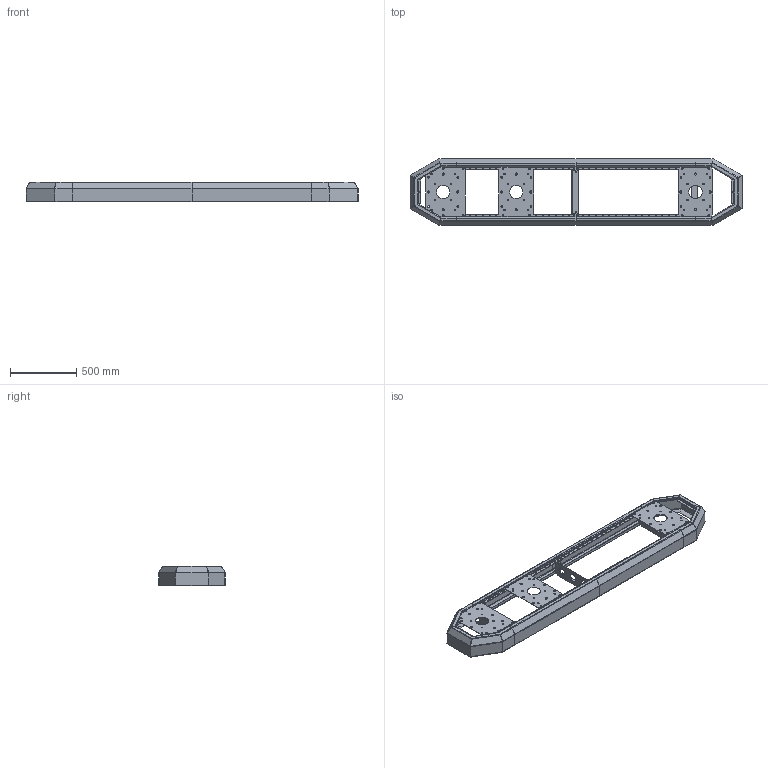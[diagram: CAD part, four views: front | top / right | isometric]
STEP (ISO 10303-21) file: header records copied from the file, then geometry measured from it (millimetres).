
FILE_DESCRIPTION(/* description */ ('Unknown'),/* implementation_level */ '2;1');
FILE_NAME(/* name */ 'PI-01.000.00 Островок безопасности',/* time_stamp */ '2023-01-27T18:47:44+03:00',/* author */ ('Unknown'),/* organization */ ('Unknown'),/* preprocessor_version */ 'ST-DEVELOPER v18.102',/* originating_system */ 'Solid Edge',/* authorisation */ 'Unknown');
FILE_SCHEMA (('CONFIG_CONTROL_DESIGN'));
Length unit declared in the file: millimetre
Products named in the file (20): PI-01.000.00 务蝠钼铌 徨珙镟耥铖蜩; PI-01.010.00 Ñåãìåíò òîðöåâîé; PI-01.010.01 Ñåãìåíò òîðöåâîé; Çàêëåïêà_ðåçüáîâàÿ_Ì6_FTT.C_0,5...3,0_oa_0; Çàêëåïêà_ðåçüáîâàÿ_Ì6_FTT.C_0,5...3,0_oa_1; PI-01.020.00 Ñåãìåíò îñíîâíîé; PI-01.020.01 Ñåãìåíò îñíîâíîé; Çàêëåïêà_ðåçüáîâàÿ_Ì6_FTT.C_0,5...3,0_oa_2; Çàêëåïêà_ðåçüáîâàÿ_Ì6_FTT.C_0,5...3,0_oa_3; PI-01.030.00 Ñòÿæêà; PI-01.030.01 Ñòÿæêà; Çàêëåïêà_ðåçüáîâàÿ_Ì6_FTT.C_0,5...3,0_oa_4; Çàêëåïêà_ðåçüáîâàÿ_Ì6_FTT.C_0,5...3,0_oa_5; Çàêëåïêà_ðåçüáîâàÿ_Ì6_FTT.C_0,5...3,0_oa_6; Çàêëåïêà_ðåçüáîâàÿ_Ì6_FTT.C_0,5...3,0_oa_7; 蹴濋趌M6_DIN_934; 鎔艜_M6x16_DIN_912; PI-01.000.01 砑僔蠂縺; 鎔艜_M6x20_DIN_912; PI-01.000.02 砑僔蠂縺
Assembly tree (71 placements, depth 3):
  PI-01.000.00 务蝠钼铌 徨珙镟耥铖蜩
    PI-01.010.00 Ñåãìåíò òîðöåâîé  x2
      PI-01.010.01 Ñåãìåíò òîðöåâîé
      Çàêëåïêà_ðåçüáîâàÿ_Ì6_FTT.C_0,5...3,0_oa_0
      Çàêëåïêà_ðåçüáîâàÿ_Ì6_FTT.C_0,5...3,0_oa_1
    PI-01.020.00 Ñåãìåíò îñíîâíîé  x4
      PI-01.020.01 Ñåãìåíò îñíîâíîé
      Çàêëåïêà_ðåçüáîâàÿ_Ì6_FTT.C_0,5...3,0_oa_2
      Çàêëåïêà_ðåçüáîâàÿ_Ì6_FTT.C_0,5...3,0_oa_3
    PI-01.030.00 Ñòÿæêà  x3
      PI-01.030.01 Ñòÿæêà
      Çàêëåïêà_ðåçüáîâàÿ_Ì6_FTT.C_0,5...3,0_oa_4
      Çàêëåïêà_ðåçüáîâàÿ_Ì6_FTT.C_0,5...3,0_oa_5
      Çàêëåïêà_ðåçüáîâàÿ_Ì6_FTT.C_0,5...3,0_oa_6
      Çàêëåïêà_ðåçüáîâàÿ_Ì6_FTT.C_0,5...3,0_oa_7
    蹴濋趌M6_DIN_934  x12
    鎔艜_M6x16_DIN_912  x8
    PI-01.000.01 砑僔蠂縺  x2
    鎔艜_M6x20_DIN_912  x28
    PI-01.000.02 砑僔蠂縺
Bounding box: 2500 x 500 x 150 mm (x, y, z)
Volume: 6144385.3 mm3; surface area: 4217754.3 mm2
Topology: 84 solids, 84 shells, 2550 faces, 6126 edges, 3912 vertices
Faces by surface type: plane 1216, cylinder 770, cone 420, torus 96, bspline 48
Full cylindrical faces by diameter (mm): 4.773 x36, 4.917 x36, 6 x72, 6.4 x12, 6.5 x12, 7 x78, 7.8 x24, 8.9 x48, 9 x12, 9.4 x12, 10 x36, 10.2 x12, 12 x24, 12.2 x24, 13 x6, 16.2 x12, 60 x9, 100 x3
Entity records: 22633 total; most frequent: CARTESIAN_POINT 4219, DIRECTION 3725, ORIENTED_EDGE 3216, EDGE_CURVE 1608, AXIS2_PLACEMENT_3D 1384, EDGE_LOOP 1114, FACE_BOUND 1114, VERTEX_POINT 1098
